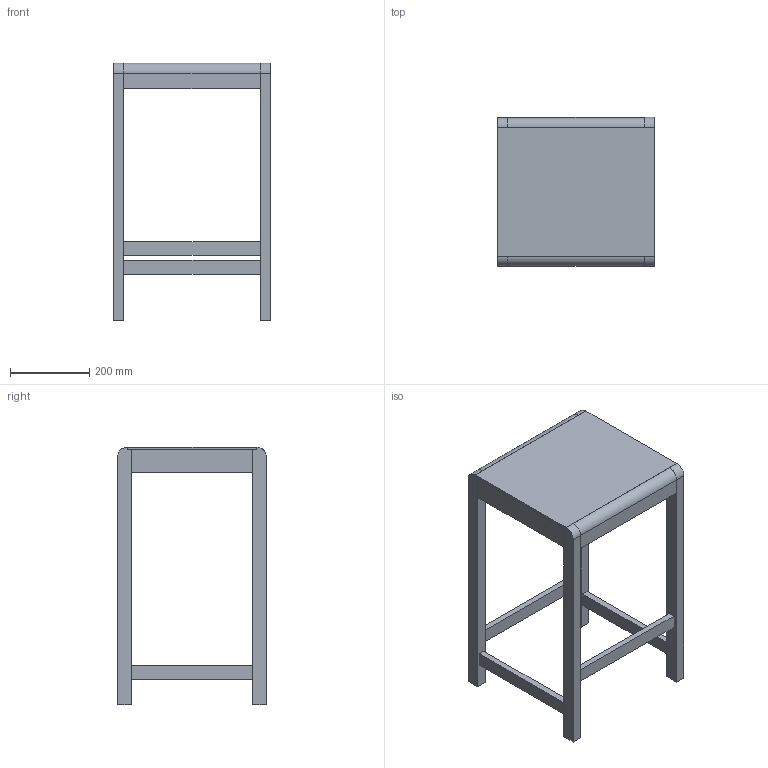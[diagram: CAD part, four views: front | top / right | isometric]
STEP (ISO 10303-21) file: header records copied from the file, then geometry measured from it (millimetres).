
FILE_DESCRIPTION(/* description */ (''),/* implementation_level */ '2;1');
FILE_NAME(/* name */ 'FRAMA_01-Stool',/* time_stamp */ '2025-10-20T10:22:05+02:00',/* author */ (''),/* organization */ (''),/* preprocessor_version */ 'ST-DEVELOPER v16.5',/* originating_system */ 'Rhino 7.38',/* authorisation */ '');
FILE_SCHEMA (('CONFIG_CONTROL_DESIGN'));
Length unit declared in the file: millimetre
Products named in the file (1): Document
Bounding box: 395 x 375.02 x 650 mm (x, y, z)
Volume: 6155605.4 mm3; surface area: 968186.7 mm2
Topology: 13 solids, 13 shells, 96 faces, 210 edges, 140 vertices
Faces by surface type: plane 90, cylinder 6
Entity records: 2288 total; most frequent: CARTESIAN_POINT 742, ORIENTED_EDGE 420, EDGE_CURVE 210, VERTEX_POINT 140, DIRECTION 100, AXIS2_PLACEMENT_3D 98, ADVANCED_FACE 96, FACE_OUTER_BOUND 96
